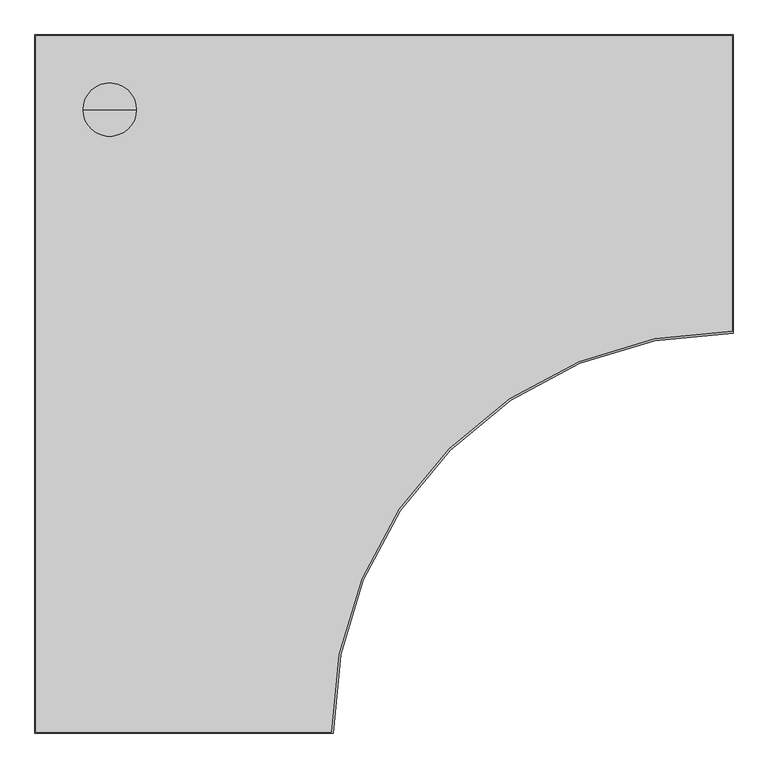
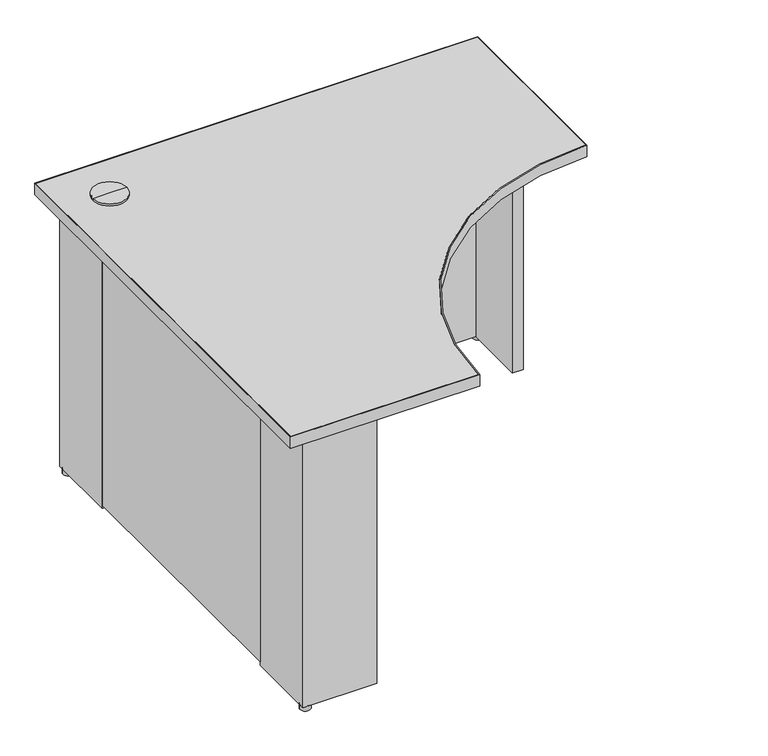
"""IFC4 building model written with IfcOpenShell, lengths in millimetres: furniture geometry, Steelcase - Kick Freestanding - Desk - Curve Corner - Full Height Modesty Panel : 18D x 42W - LPL."""

from ifc_helpers import new_model, si_unit, point, frame, frame_2d, origin, origin_with_axes, place, context, project, spatial, polyline, circle_curve, trimmed, segment, composite_curve, outline, extrude, source, transform, mapped, element, save
from ifc_brep_helpers import plane_surface, cylinder_surface, advanced_brep


def furniture_de2c069e(model_context):
    return source(origin(), model_context, "Body", "SolidModel", [
        extrude(outline(polyline([(874.0393822, -63.5), (874.0393822, -38.1), (1051.8393579, -38.1), (1051.8393579, -215.8999939), (1025.9313463, -215.8999939), (1025.9313463, -63.5), (874.0393822, -63.5)])), frame((0.0, 0.0, 12.446), z_axis=(0.0, 0.0, 1.0), x_axis=(1.0, 0.0, 0.0)), (0.0, 0.0, 1.0), 682.498),
        extrude(outline(polyline([(215.8999939, -63.5), (63.5, -63.5), (63.5, -215.8999939), (38.1, -215.8999939), (38.1, -38.1), (215.8999939, -38.1), (215.8999939, -63.5)])), frame((0.0, 0.0, 12.446), z_axis=(0.0, 0.0, 1.0), x_axis=(1.0, 0.0, 0.0)), (0.0, 0.0, 1.0), 682.498),
        advanced_brep(
        [(114.3, -114.3, 728.98), (154.94, -114.3, 728.98), (73.66, -114.3, 728.98), (76.1699693, -114.3, 694.944), (152.4300307, -114.3, 694.944), (114.3, -114.3, 694.944), (76.1699693, -114.3, 723.9), (152.4300307, -114.3, 723.9), (73.66, -114.3, 723.9), (154.94, -114.3, 723.9)],
        [
            (0, 1),
            (1, 2, circle_curve(frame((114.3, -114.3, 728.98), z_axis=(0.0, 0.0, 1.0), x_axis=(1.0, 0.0, 0.0)), 40.64)),
            (2, 0),
            (2, 1, circle_curve(frame((114.3, -114.3, 728.98), z_axis=(0.0, 0.0, 1.0), x_axis=(1.0, 0.0, 0.0)), 40.64)),
            (3, 4, circle_curve(frame((114.3, -114.3, 694.944), z_axis=(0.0, 0.0, -1.0), x_axis=(1.0, 0.0, 0.0)), 38.1300307)),
            (4, 5),
            (5, 3),
            (4, 3, circle_curve(frame((114.3, -114.3, 694.944), z_axis=(0.0, 0.0, -1.0), x_axis=(1.0, 0.0, 0.0)), 38.1300307)),
            (6, 7, circle_curve(frame((114.3, -114.3, 723.9), z_axis=(0.0, 0.0, -1.0), x_axis=(1.0, 0.0, 0.0)), 38.1300307)),
            (7, 4),
            (3, 6),
            (7, 6, circle_curve(frame((114.3, -114.3, 723.9), z_axis=(0.0, 0.0, -1.0), x_axis=(1.0, 0.0, 0.0)), 38.1300307)),
            (8, 9, circle_curve(frame((114.3, -114.3, 723.9), z_axis=(0.0, 0.0, -1.0), x_axis=(1.0, 0.0, 0.0)), 40.64)),
            (9, 7),
            (6, 8),
            (9, 8, circle_curve(frame((114.3, -114.3, 723.9), z_axis=(0.0, 0.0, -1.0), x_axis=(1.0, 0.0, 0.0)), 40.64)),
            (1, 9),
            (8, 2),
        ],
        [
            plane_surface(frame((114.3, -114.3, 728.98), z_axis=(0.0, 0.0, 1.0), x_axis=(1.0, 0.0, 0.0))),
            plane_surface(frame((114.3, -114.3, 694.944), z_axis=(0.0, 0.0, -1.0), x_axis=(1.0, 0.0, 0.0))),
            cylinder_surface(frame((114.3, -114.3, 728.98), z_axis=(0.0, 0.0, 1.0), x_axis=(1.0, 0.0, 0.0)), 38.1300307),
            plane_surface(frame((114.3, -114.3, 723.9), z_axis=(0.0, 0.0, -1.0), x_axis=(1.0, 0.0, 0.0))),
            cylinder_surface(frame((114.3, -114.3, 728.98), z_axis=(0.0, 0.0, 1.0), x_axis=(1.0, 0.0, 0.0)), 40.64),
        ],
        [
            (0, [[1, 2, 3]]),
            (0, [[-3, 4, -1]]),
            (1, [[5, 6, 7]]),
            (1, [[8, -7, -6]]),
            (2, [[9, 10, -5, 11]]),
            (2, [[12, -11, -8, -10]]),
            (3, [[13, 14, -9, 15]]),
            (3, [[16, -15, -12, -14]]),
            (4, [[-2, 17, -13, 18]]),
            (4, [[-4, -18, -16, -17]]),
        ],
    ),
        extrude(outline(composite_curve([segment(trimmed(circle_curve(frame_2d((50.8, -50.8)), 12.7), [point((38.1, -50.8))], [point((63.5, -50.8))], False, "CARTESIAN"), True, "CONTINUOUS"), segment(trimmed(circle_curve(frame_2d((50.8, -50.8)), 12.7), [point((63.5, -50.8))], [point((38.1, -50.8))], False, "CARTESIAN"), True, "CONTINUOUS")], self_intersect=False)), origin_with_axes(), (0.0, 0.0, 1.0), 12.446),
        extrude(outline(composite_curve([segment(trimmed(circle_curve(frame_2d((50.8, -1040.1300073)), 12.7484998), [point((38.0515002, -1040.1300073))], [point((63.5484998, -1040.1300073))], False, "CARTESIAN"), True, "CONTINUOUS"), segment(trimmed(circle_curve(frame_2d((50.8, -1040.1300073)), 12.7484998), [point((63.5484998, -1040.1300073))], [point((38.0515002, -1040.1300073))], False, "CARTESIAN"), True, "CONTINUOUS")], self_intersect=False)), origin_with_axes(), (0.0, 0.0, 1.0), 12.446),
        extrude(outline(composite_curve([segment(trimmed(circle_curve(frame_2d((1038.8853521, -50.8)), 12.7), [point((1026.1853521, -50.8))], [point((1051.5853521, -50.8))], False, "CARTESIAN"), True, "CONTINUOUS"), segment(trimmed(circle_curve(frame_2d((1038.8853521, -50.8)), 12.7), [point((1051.5853521, -50.8))], [point((1026.1853521, -50.8))], False, "CARTESIAN"), True, "CONTINUOUS")], self_intersect=False)), origin_with_axes(), (0.0, 0.0, 1.0), 12.446),
        extrude(outline(polyline([(63.5, -215.8999939), (63.5, -875.0300194), (38.1, -875.0300194), (38.1, -215.8999939), (63.5, -215.8999939)])), frame((0.0, 0.0, 20.828), z_axis=(0.0, 0.0, 1.0), x_axis=(1.0, 0.0, 0.0)), (0.0, 0.0, 1.0), 674.116),
        extrude(outline(polyline([(874.0393822, -38.1), (874.0393822, -63.5), (215.8999939, -63.5), (215.8999939, -38.1), (874.0393822, -38.1)])), frame((0.0, 0.0, 20.828), z_axis=(0.0, 0.0, 1.0), x_axis=(1.0, 0.0, 0.0)), (0.0, 0.0, 1.0), 674.116),
        extrude(outline(polyline([(215.8999939, -1027.4300194), (215.8999939, -1052.8299952), (38.1, -1052.8299952), (38.1, -875.0300194), (63.5, -875.0300194), (63.5, -1027.4300194), (215.8999939, -1027.4300194)])), frame((0.0, 0.0, 12.446), z_axis=(0.0, 0.0, 1.0), x_axis=(1.0, 0.0, 0.0)), (0.0, 0.0, 1.0), 682.498),
        extrude(outline(composite_curve([segment(polyline([(0.9906, -1065.8093628), (0.9906, -0.9906), (1065.8093628, -0.9906), (1065.8093628, -452.9354109)]), True, "CONTINUOUS"), segment(trimmed(circle_curve(frame_2d((1064.5393458, -1064.5393458)), 611.6052536), [point((1065.8093628, -452.9354109))], [point((452.9354109, -1065.8093628))], True, "CARTESIAN"), True, "CONTINUOUS"), segment(polyline([(452.9354109, -1065.8093628), (0.9906, -1065.8093628)]), True, "CONTINUOUS")], self_intersect=False)), frame((0.0, 0.0, 694.944), z_axis=(0.0, 0.0, 1.0), x_axis=(1.0, 0.0, 0.0)), (0.0, 0.0, 1.0), 28.956),
        extrude(outline(composite_curve([segment(polyline([(1066.8, 0.0), (1066.8, -455.932629)]), True, "CONTINUOUS"), segment(trimmed(circle_curve(frame_2d((1065.529983, -1065.529983)), 609.598677), [point((1066.8, -455.932629))], [point((455.932629, -1066.8))], True, "CARTESIAN"), True, "CONTINUOUS"), segment(polyline([(455.932629, -1066.8), (0.0, -1066.8), (0.0, 0.0), (1066.8, 0.0)]), True, "CONTINUOUS")], self_intersect=False), holes=[composite_curve([segment(polyline([(1065.8093628, -0.9906), (0.9906, -0.9906), (0.9906, -1065.8093628), (452.9354109, -1065.8093628)]), True, "CONTINUOUS"), segment(trimmed(circle_curve(frame_2d((1064.5393458, -1064.5393458)), 611.6052536), [point((452.9354109, -1065.8093628))], [point((1065.8093628, -452.9354109))], False, "CARTESIAN"), True, "CONTINUOUS"), segment(polyline([(1065.8093628, -452.9354109), (1065.8093628, -0.9906)]), True, "CONTINUOUS")], self_intersect=False)]), frame((0.0, 0.0, 694.944), z_axis=(0.0, 0.0, 1.0), x_axis=(1.0, 0.0, 0.0)), (0.0, 0.0, 1.0), 28.956),
    ])


if __name__ == "__main__":
    model = new_model("IFC4")
    model_context = context("Model", 3, world=origin())
    ifc_project = project(units=[si_unit("LENGTHUNIT", "METRE", prefix="MILLI")], contexts=[model_context])
    site = spatial("IfcSite", under=ifc_project)
    building = spatial("IfcBuilding", under=site)
    placement = place(None, origin())
    furniture_shape = furniture_de2c069e(model_context)
    element("IfcFurniture", 1, ObjectType="Steelcase - Kick Freestanding - Desk - Curve Corner - Full Height Modesty Panel : 18D x 42W - LPL", at=placement, inside=building, context=model_context, shape_type="MappedRepresentation", body=[
        mapped(furniture_shape, transform((0.0, 0.0, 0.0), x_axis=(1.0, 0.0, 0.0), y_axis=(0.0, 1.0, 0.0), z_axis=(0.0, 0.0, 1.0))),
    ])
    save(model, "model.ifc")
